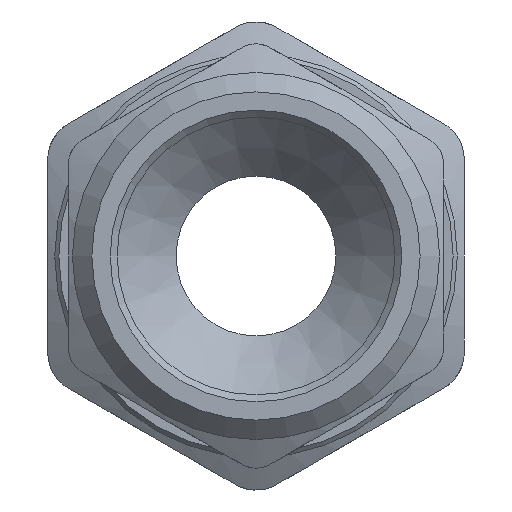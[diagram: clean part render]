
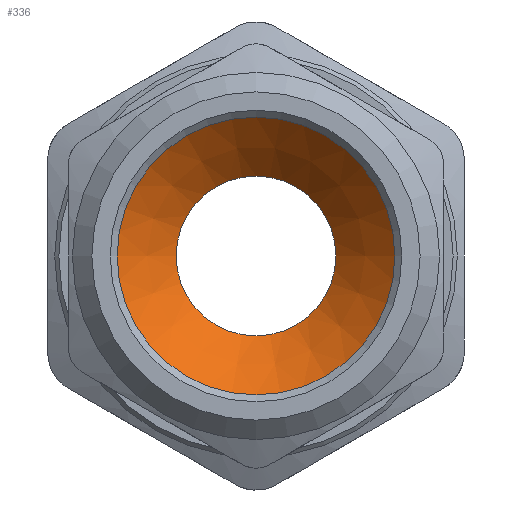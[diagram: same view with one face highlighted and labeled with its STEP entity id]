
A CAD part, front view. The second image highlights one B-rep face of the part: STEP entity #336.
In plain terms, the highlighted conical face has half-angle 45 degrees and reference radius 7.875 mm.
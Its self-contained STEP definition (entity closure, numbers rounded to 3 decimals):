
#336=ADVANCED_FACE('',(#2314,#2316),#2318,.F.);
#2314=FACE_OUTER_BOUND('',#2315,.T.);
#2315=EDGE_LOOP('',(#4309));
#2316=FACE_OUTER_BOUND('',#2317,.T.);
#2317=EDGE_LOOP('',(#4310));
#2318=CONICAL_SURFACE('',#2319,7.875,0.785);
#2319=AXIS2_PLACEMENT_3D('',#2320,#2321,#2322);
#2320=CARTESIAN_POINT('',(0.,21.125,0.));
#2321=DIRECTION('',(0.,-1.,0.));
#2322=DIRECTION('',(1.,0.,0.));
#4309=ORIENTED_EDGE('',*,*,#5092,.T.);
#4310=ORIENTED_EDGE('',*,*,#5094,.F.);
#5092=EDGE_CURVE('',#6372,#6372,#6373,.T.);
#5094=EDGE_CURVE('',#6376,#6376,#6377,.T.);
#6372=VERTEX_POINT('',#11414);
#6373=CIRCLE('',#11415,10.);
#6376=VERTEX_POINT('',#11424);
#6377=CIRCLE('',#11425,5.75);
#11414=CARTESIAN_POINT('',(10.,19.,0.));
#11415=AXIS2_PLACEMENT_3D('',#11416,#11417,#11418);
#11416=CARTESIAN_POINT('',(0.,19.,0.));
#11417=DIRECTION('',(0.,-1.,0.));
#11418=DIRECTION('',(1.,0.,0.));
#11424=CARTESIAN_POINT('',(5.75,23.25,0.));
#11425=AXIS2_PLACEMENT_3D('',#11426,#11427,#11428);
#11426=CARTESIAN_POINT('',(0.,23.25,0.));
#11427=DIRECTION('',(0.,-1.,0.));
#11428=DIRECTION('',(1.,0.,0.));
